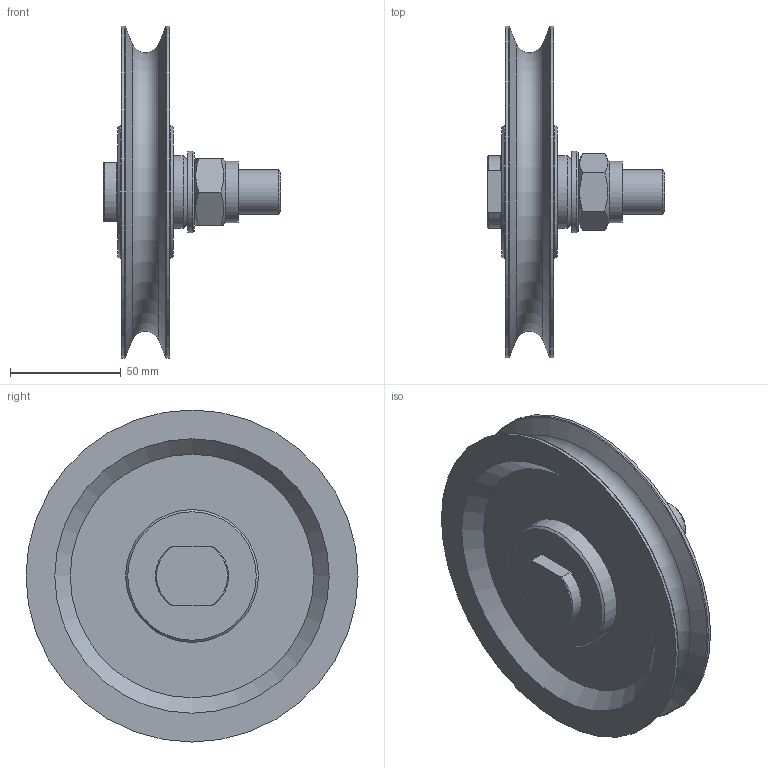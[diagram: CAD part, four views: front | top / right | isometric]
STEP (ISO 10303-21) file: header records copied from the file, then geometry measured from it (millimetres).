
FILE_DESCRIPTION(/* description */ ('Seilrolle ø150 feststehende Achse'),/* implementation_level */ '2;1');
FILE_NAME(/* name */ 'Z:\Workspace\03 Seilrollen\1.408 Seilrollen feststehende Achse Gleitlager\1.408.05 Seilrolle ø150 feststehende Achse GL\1.408.05 Seilrolle ø150 feststehende Achse.stp',/* time_stamp */ '2021-10-11T10:32:45+02:00',/* author */ ('cad-user'),/* organization */ (''),/* preprocessor_version */ 'ST-DEVELOPER v18',/* originating_system */ 'Autodesk Inventor 2020',/* authorisation */ '');
FILE_SCHEMA (('AUTOMOTIVE_DESIGN { 1 0 10303 214 3 1 1 }'));
Length unit declared in the file: millimetre
Products named in the file (8): 1.408.05 Seilrolle ø150 feststehende Achse; 1.401.05 Seilrolle ø150 Buchse komplett ; 1.401.05 Seilrolle ø150 Buchse ; Lagerbuchse 2025-DU; 1.408.05.02 Scheibe; 1.408.05.01 Schraube; DIN 125-1 - B 21; DIN 985 - M20
Assembly tree (7 placements, depth 3):
  1.408.05 Seilrolle ø150 feststehende Achse
    1.401.05 Seilrolle ø150 Buchse komplett 
      1.401.05 Seilrolle ø150 Buchse 
      Lagerbuchse 2025-DU
    1.408.05.02 Scheibe
    1.408.05.01 Schraube
    DIN 125-1 - B 21
    DIN 985 - M20
Bounding box: 80 x 150 x 150 mm (x, y, z)
Volume: 251772.7 mm3; surface area: 75004.8 mm2
Topology: 6 solids, 6 shells, 66 faces, 158 edges, 107 vertices
Faces by surface type: plane 27, cone 19, cylinder 17, torus 3
Full cylindrical faces by diameter (mm): 17.294 x1, 20 x1, 21 x2, 23 x1, 27.7 x1, 33 x1, 37 x1, 60 x2, 150 x2
Entity records: 2265 total; most frequent: CARTESIAN_POINT 394, DIRECTION 382, ORIENTED_EDGE 316, AXIS2_PLACEMENT_3D 167, EDGE_CURVE 158, VERTEX_POINT 107, CIRCLE 86, EDGE_LOOP 79
